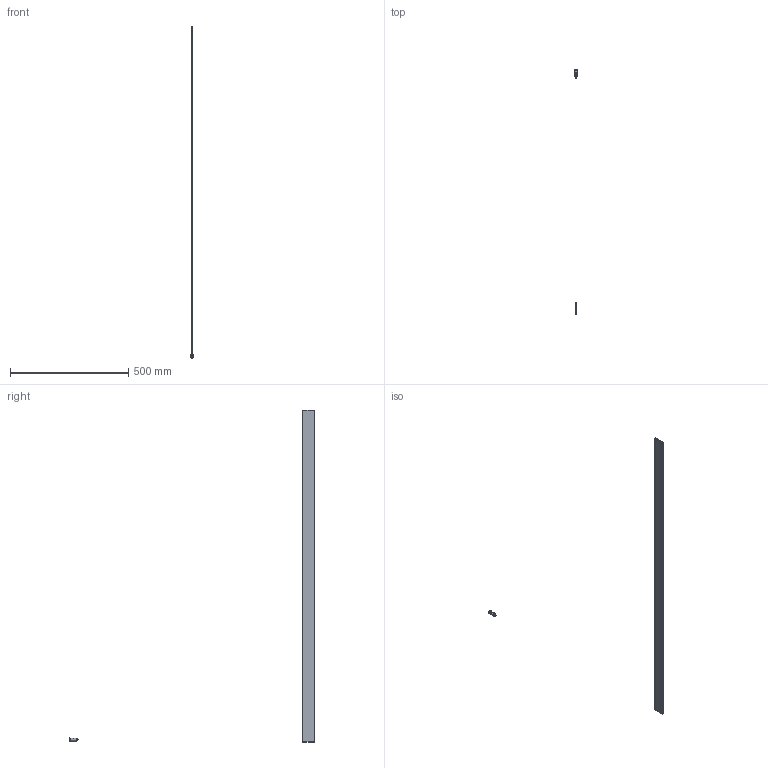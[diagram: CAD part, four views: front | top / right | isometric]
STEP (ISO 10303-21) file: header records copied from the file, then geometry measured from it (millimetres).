
FILE_DESCRIPTION(/* description */ (''),/* implementation_level */ '2;1');
FILE_NAME(/* name */ 'SOTTILE 2.stp',/* time_stamp */ '2024-02-19T15:45:38+01:00',/* author */ ('n.bisotti'),/* organization */ (''),/* preprocessor_version */ 'ST-DEVELOPER v19.2',/* originating_system */ 'Autodesk Inventor 2023',/* authorisation */ '');
FILE_SCHEMA (('AUTOMOTIVE_DESIGN { 1 0 10303 214 3 1 1 }'));
Length unit declared in the file: centimetre
Products named in the file (1): Parte2
Bounding box: 15.96 x 1035 x 1403 mm (x, y, z)
Volume: 156961.4 mm3; surface area: 333214.1 mm2
Topology: 4 solids, 6 shells, 251 faces, 640 edges, 428 vertices
Faces by surface type: plane 134, bspline 92, cylinder 19, cone 5, torus 1
Full cylindrical faces by diameter (mm): 2.5 x1, 4.917 x1, 6 x1, 7 x1, 7.5 x1, 8.5 x1, 8.917 x1, 10 x1, 12 x2, 16 x1
Entity records: 8145 total; most frequent: CARTESIAN_POINT 2500, ORIENTED_EDGE 1272, DIRECTION 831, EDGE_CURVE 640, VERTEX_POINT 428, LINE 401, VECTOR 401, EDGE_LOOP 288
